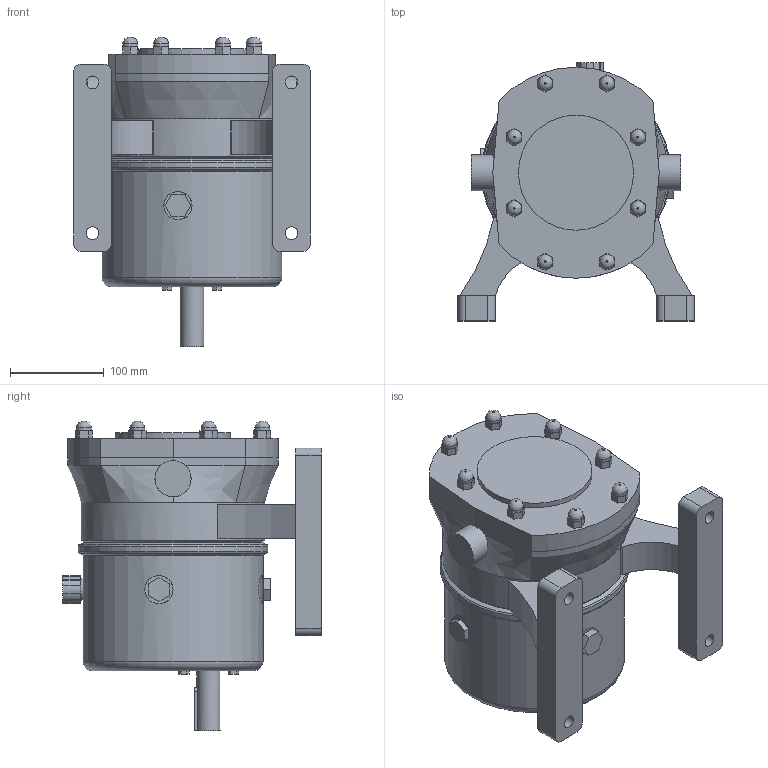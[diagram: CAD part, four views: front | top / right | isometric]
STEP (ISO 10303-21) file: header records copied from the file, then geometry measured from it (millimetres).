
FILE_DESCRIPTION((''),'2;1');
FILE_NAME('T:\_Engineering\Read Only\Studenci\Maciej\DW pumps\STEP\DW3_017_20_shaft_bottom.stp','2013-06-10T11:10:24',('pszymczyk'),(''),'Autodesk Inventor 2012','Autodesk Inventor 2012','');
FILE_SCHEMA(('CONFIG_CONTROL_DESIGN'));
Length unit declared in the file: millimetre
Products named in the file (1): DW_iparts
Bounding box: 252 x 275.5 x 330 mm (x, y, z)
Volume: 4813254.3 mm3; surface area: 501811.3 mm2
Topology: 1 solids, 3 shells, 313 faces, 757 edges, 475 vertices
Faces by surface type: plane 219, cylinder 69, bspline 12, cone 9, torus 4
Full cylindrical faces by diameter (mm): 16 x8, 23 x1, 25 x1, 30 x4, 38.6 x2, 90 x1, 110 x1, 122.8 x1, 189 x2, 192 x2, 196 x2, 202 x1
Entity records: 9544 total; most frequent: CARTESIAN_POINT 2199, DIRECTION 1511, ORIENTED_EDGE 1424, EDGE_CURVE 712, AXIS2_PLACEMENT_3D 506, VECTOR 499, LINE 499, VERTEX_POINT 472
